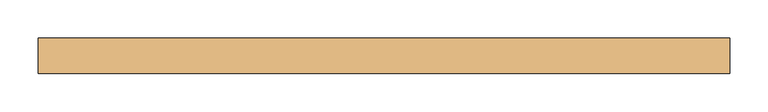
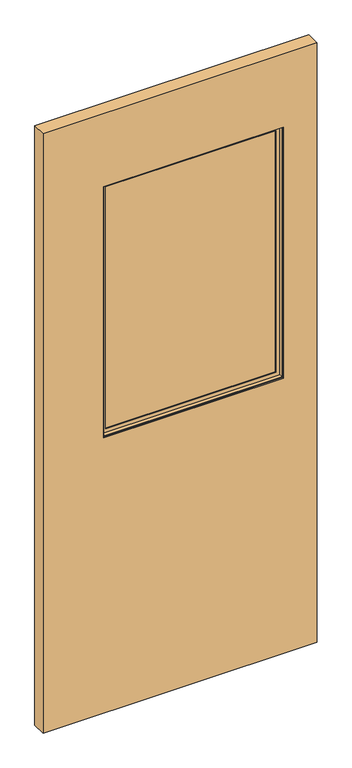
"""IFC4 building model written with IfcOpenShell, lengths in millimetres: door geometry, Solid_Hinged_Door_Glass_insert-AIH-Teknion-FHDB-Leaf_Single-R2022 : (A) Justified Half Glass insert."""

from ifc_helpers import new_model, si_unit, frame, origin, place, context, project, spatial, polyline, outline, extrude, faceted_brep, source, transform, mapped, element, save


def door_b8178bb8(model_context):
    return source(origin(), model_context, "Body", "SolidModel", [
        extrude(outline(polyline([(340.7611882, -3.175), (-251.0588118, -3.175), (-251.0588118, 3.175), (340.7611882, 3.175), (340.7611882, -3.175)])), frame((0.0, 0.0, 968.7435027), z_axis=(0.0, 0.0, 1.0), x_axis=(1.0, 0.0, 0.0)), (0.0, 0.0, 1.0), 871.22),
        faceted_brep([(-235.1682328, 3.797467, 1824.0729238), (-235.1682328, 3.797467, 984.6340817), (-235.1682328, 6.9755828, 984.6340817), (-235.1682328, 6.9755828, 1824.0729238), (324.8706092, 3.797467, 984.6340817), (324.8706092, 6.9755828, 984.6340817), (337.5830724, 6.9755828, 971.9216185), (-247.880696, 6.9755828, 971.9216185), (-247.880696, 6.9755828, 1836.7853869), (337.5830724, 6.9755828, 1836.7853869), (324.8706092, 6.9755828, 1824.0729238), (324.8706092, 3.797467, 1824.0729238), (-251.0588118, 3.797467, 968.7435027), (340.7611882, 3.797467, 968.7435027), (340.7611882, 3.797467, 1839.9635027), (-251.0588118, 3.797467, 1839.9635027), (-251.0588118, 19.688046, 1839.9635027), (-251.0588118, 19.688046, 968.7435027), (340.7611882, 19.688046, 968.7435027), (340.7611882, 19.688046, 1839.9635027), (-247.880696, 19.688046, 971.9216185), (337.5830724, 19.688046, 971.9216185), (337.5830724, 19.688046, 1836.7853869), (-247.880696, 19.688046, 1836.7853869)], [[[0, 1, 2, 3]], [[1, 4, 5, 2]], [[6, 7, 8, 9], [2, 5, 10, 3]], [[4, 11, 10, 5]], [[12, 13, 14, 15], [4, 1, 0, 11]], [[16, 17, 12, 15]], [[17, 18, 13, 12]], [[18, 19, 14, 13]], [[18, 17, 16, 19], [20, 21, 22, 23]], [[8, 7, 20, 23]], [[7, 6, 21, 20]], [[6, 9, 22, 21]], [[11, 0, 3, 10]], [[19, 16, 15, 14]], [[9, 8, 23, 22]]]),
        faceted_brep([(-247.880696, -19.688046, 1836.7853869), (-247.880696, -19.688046, 971.9216185), (-247.880696, -6.9755828, 971.9216185), (-247.880696, -6.9755828, 1836.7853869), (337.5830724, -19.688046, 971.9216185), (337.5830724, -6.9755828, 971.9216185), (337.5830724, -6.9755828, 1836.7853869), (324.8706092, -6.9755828, 984.6340817), (-235.1682328, -6.9755828, 984.6340817), (-235.1682328, -6.9755828, 1824.0729238), (324.8706092, -6.9755828, 1824.0729238), (337.5830724, -19.688046, 1836.7853869), (-251.0588118, -19.688046, 968.7435027), (340.7611882, -19.688046, 968.7435027), (340.7611882, -19.688046, 1839.9635027), (-251.0588118, -19.688046, 1839.9635027), (-251.0588118, -3.797467, 1839.9635027), (-251.0588118, -3.797467, 968.7435027), (340.7611882, -3.797467, 968.7435027), (340.7611882, -3.797467, 1839.9635027), (-235.1682328, -3.797467, 984.6340817), (324.8706092, -3.797467, 984.6340817), (324.8706092, -3.797467, 1824.0729238), (-235.1682328, -3.797467, 1824.0729238)], [[[0, 1, 2, 3]], [[1, 4, 5, 2]], [[2, 5, 6, 3], [7, 8, 9, 10]], [[4, 11, 6, 5]], [[12, 13, 14, 15], [4, 1, 0, 11]], [[16, 17, 12, 15]], [[17, 18, 13, 12]], [[18, 19, 14, 13]], [[18, 17, 16, 19], [20, 21, 22, 23]], [[9, 8, 20, 23]], [[8, 7, 21, 20]], [[7, 10, 22, 21]], [[11, 0, 3, 6]], [[19, 16, 15, 14]], [[10, 9, 23, 22]]]),
        extrude(outline(polyline([(2093.9635027, -450.4488118), (12.7, -450.4488118), (12.7, 450.4488118), (2093.9635027, 450.4488118), (2093.9635027, -450.4488118)]), holes=[polyline([(1839.9635027, 340.7611882), (968.7435027, 340.7611882), (968.7435027, -251.0588118), (1839.9635027, -251.0588118), (1839.9635027, 340.7611882)])]), frame((0.0, -23.114, 0.0), z_axis=(0.0, 1.0, 0.0), x_axis=(0.0, 0.0, 1.0)), (0.0, 0.0, 1.0), 46.228),
        extrude(outline(polyline([(425.0488118, 9.8925062), (-425.0488118, 9.8925062), (-425.0488118, 11.4927062), (425.0488118, 11.4927062), (425.0488118, 9.8925062)])), frame((0.0, 0.0, 12.7), z_axis=(0.0, 0.0, 1.0), x_axis=(1.0, 0.0, 0.0)), (0.0, 0.0, 1.0), 254.0),
        extrude(outline(polyline([(425.0488118, 21.5634094), (-425.0488118, 21.5634094), (-425.0488118, 23.114), (425.0488118, 23.114), (425.0488118, 21.5634094)])), frame((0.0, 0.0, 12.7), z_axis=(0.0, 0.0, 1.0), x_axis=(1.0, 0.0, 0.0)), (0.0, 0.0, 1.0), 254.0),
    ])


if __name__ == "__main__":
    model = new_model("IFC4")
    model_context = context("Model", 3, world=origin())
    ifc_project = project(units=[si_unit("LENGTHUNIT", "METRE", prefix="MILLI")], contexts=[model_context])
    site = spatial("IfcSite", under=ifc_project)
    building = spatial("IfcBuilding", under=site)
    placement = place(None, origin())
    door_shape = door_b8178bb8(model_context)
    element("IfcDoor", 1, ObjectType="Solid_Hinged_Door_Glass_insert-AIH-Teknion-FHDB-Leaf_Single-R2022 : (A) Justified Half Glass insert", at=placement, inside=building, context=model_context, shape_type="MappedRepresentation", body=[
        mapped(door_shape, transform((0.0, 0.0, 0.0), x_axis=(1.0, 0.0, 0.0), y_axis=(0.0, 1.0, 0.0), z_axis=(0.0, 0.0, 1.0))),
    ])
    save(model, "model.ifc")
